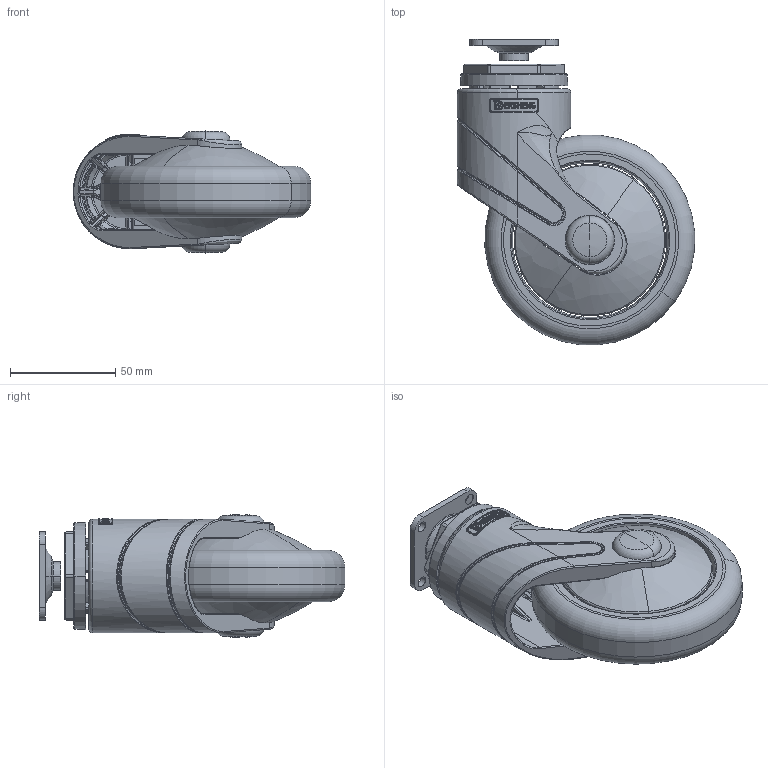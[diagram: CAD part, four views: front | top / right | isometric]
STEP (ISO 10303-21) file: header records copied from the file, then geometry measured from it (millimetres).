
FILE_DESCRIPTION((''),'2;1');
FILE_NAME('PRT0002','2025-12-18T14:22:57',('Administrator'),(''),'CREO PARAMETRIC BY PTC INC, 2022124','CREO PARAMETRIC BY PTC INC, 2022124','');
FILE_SCHEMA(('AUTOMOTIVE_DESIGN { 1 0 10303 214 1 1 1 1 }'));
Length unit declared in the file: millimetre
Products named in the file (1): PRT0002
Bounding box: 112.87 x 145.37 x 58.39 mm (x, y, z)
Surface area: 59009.1 mm2 (no closed solid volume)
Topology: 0 solids, 35 shells, 357 faces, 1631 edges, 1282 vertices
Faces by surface type: bspline 97, cylinder 96, plane 69, torus 55, cone 35, sphere 5
Entity records: 31276 total; most frequent: CARTESIAN_POINT 17585, ORIENTED_EDGE 2182, DIRECTION 1854, EDGE_CURVE 1627, VERTEX_POINT 1282, B_SPLINE_CURVE_WITH_KNOTS 808, AXIS2_PLACEMENT_3D 762, CIRCLE 492
